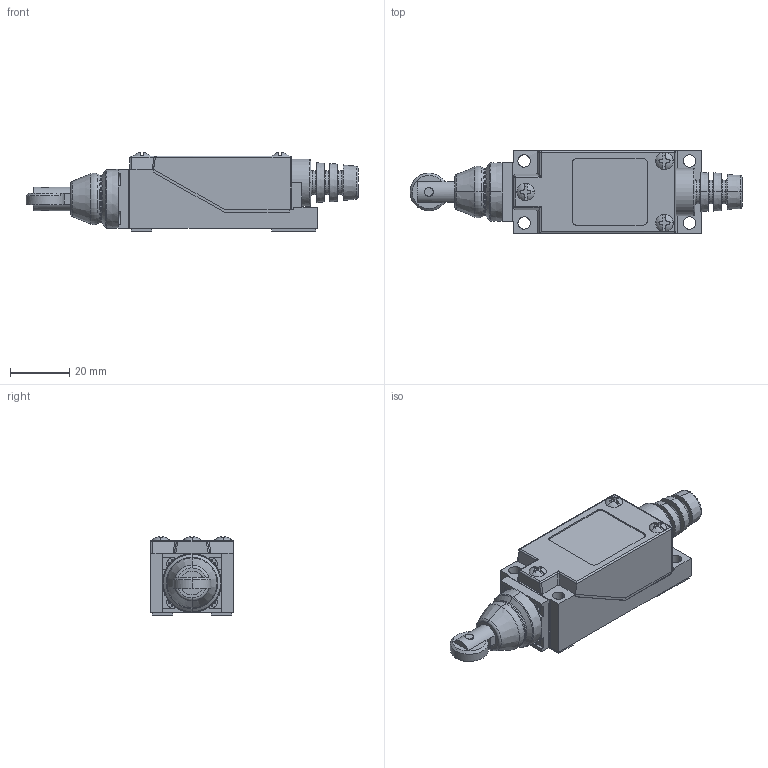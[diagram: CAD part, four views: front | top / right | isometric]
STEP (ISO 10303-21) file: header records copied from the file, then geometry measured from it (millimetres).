
FILE_DESCRIPTION(('STEP AP203'), '1');
FILE_NAME('Korpus-6.stp', '2014-07-04T09:58:48', ('UNSPECIFIED'), ('UNSPECIFIED'), 'ASCON STEP Converter 1.0', 'Kompas 3D', '');
FILE_SCHEMA(('CONFIG_CONTROL_DESIGN'));
Length unit declared in the file: millimetre
Bounding box: 112.4 x 28 x 26.71 mm (x, y, z)
Surface area: 11993.8 mm2 (no closed solid volume)
Topology: 0 solids, 1 shells, 376 faces, 960 edges, 605 vertices
Faces by surface type: plane 243, cylinder 66, cone 28, torus 26, sphere 11, bspline 2
Full cylindrical faces by diameter (mm): 16 x1
Entity records: 11571 total; most frequent: CARTESIAN_POINT 2749, ORIENTED_EDGE 1903, DIRECTION 1722, EDGE_CURVE 953, LINE 620, VECTOR 620, VERTEX_POINT 605, AXIS2_PLACEMENT_3D 551
